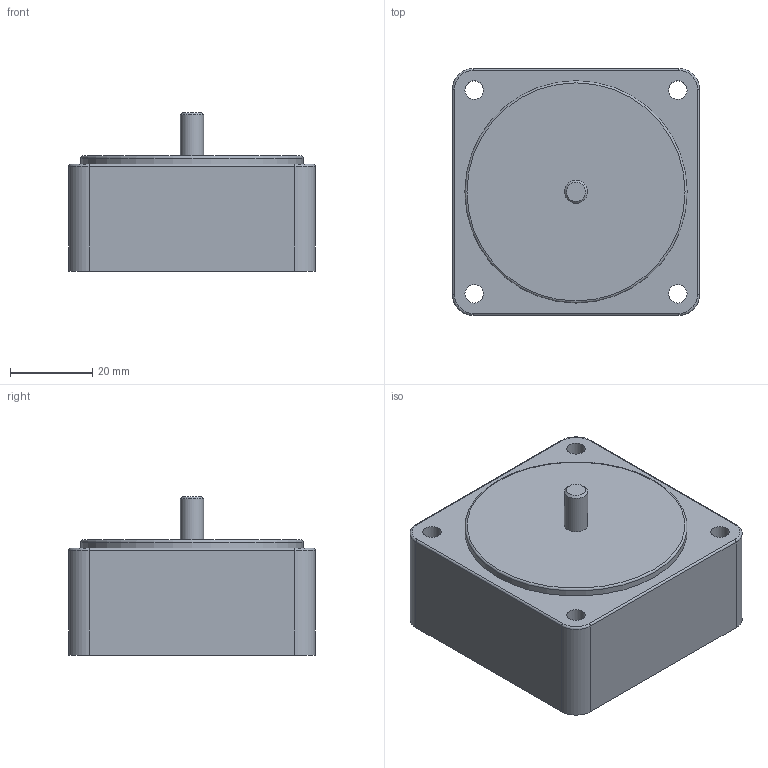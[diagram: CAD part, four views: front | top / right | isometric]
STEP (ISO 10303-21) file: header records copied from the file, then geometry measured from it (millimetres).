
FILE_DESCRIPTION((''),'2;1');
FILE_NAME('E:\2공장-도면\3D\표준형 3D(민규)\step file\감속기\K6G10BX.stp','2014-11-18T17:36:58',('AHN'),(''),'Autodesk Inventor 2012','Autodesk Inventor 2012','');
FILE_SCHEMA(('CONFIG_CONTROL_DESIGN'));
Length unit declared in the file: millimetre
Products named in the file (1): K6G10BX
Bounding box: 60 x 60 x 38.5 mm (x, y, z)
Volume: 96207.2 mm3; surface area: 14950.5 mm2
Topology: 1 solids, 1 shells, 28 faces, 62 edges, 38 vertices
Faces by surface type: cylinder 14, plane 8, torus 5, cone 1
Full cylindrical faces by diameter (mm): 4.5 x4, 5.64 x1, 54 x1
Entity records: 782 total; most frequent: DIRECTION 146, CARTESIAN_POINT 121, ORIENTED_EDGE 108, AXIS2_PLACEMENT_3D 63, EDGE_CURVE 54, EDGE_LOOP 46, VERTEX_POINT 38, CIRCLE 34
